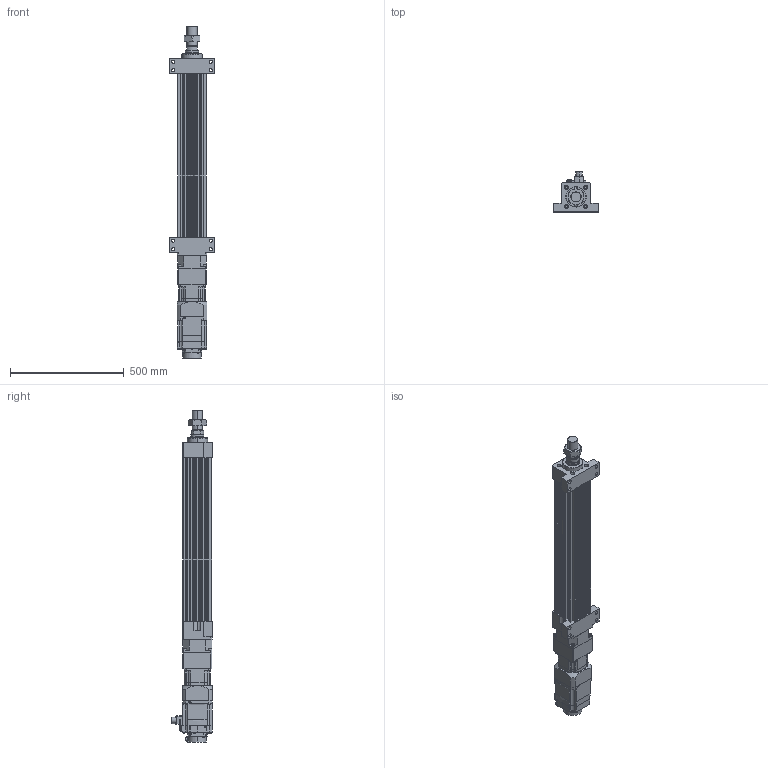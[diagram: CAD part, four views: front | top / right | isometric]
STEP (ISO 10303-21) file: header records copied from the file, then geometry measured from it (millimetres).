
FILE_DESCRIPTION (( 'STEP AP203' ), '1' );
FILE_NAME ('HES130NS(FS)(HS)-S500-W015G00-M-FFB.STEP', '2026-06-10T06:16:23', ( 'tms' ), ( '' ), 'SwSTEP 2.0', 'SolidWorks 2013', '' );
FILE_SCHEMA (( 'CONFIG_CONTROL_DESIGN' ));
Length unit declared in the file: millimetre
Products named in the file (8): HG-SR152B; HES130-S-G120; HES130NS(FS)(HS)-S500-W015G00-M-FFB; HES130-M-ROD-500; M45X1.5P; AB1151; AB1152; HES130-FFB-500
Assembly tree (7 placements, depth 2):
  HES130NS(FS)(HS)-S500-W015G00-M-FFB
    HES130-FFB-500
    HES130-M-ROD-500
    M45X1.5P
    HES130-S-G120
    AB1151
    AB1152
    HG-SR152B
Bounding box: 200 x 177.49 x 1462 mm (x, y, z)
Volume: 11842925.8 mm3; surface area: 1516257.5 mm2
Topology: 5 solids, 12 shells, 1246 faces, 3164 edges, 2063 vertices
Faces by surface type: plane 586, cylinder 572, cone 74, bspline 10, torus 4
Entity records: 39589 total; most frequent: CARTESIAN_POINT 7596, DIRECTION 6833, ORIENTED_EDGE 6300, EDGE_CURVE 3160, AXIS2_PLACEMENT_3D 2521, VERTEX_POINT 2063, VECTOR 1791, LINE 1791
